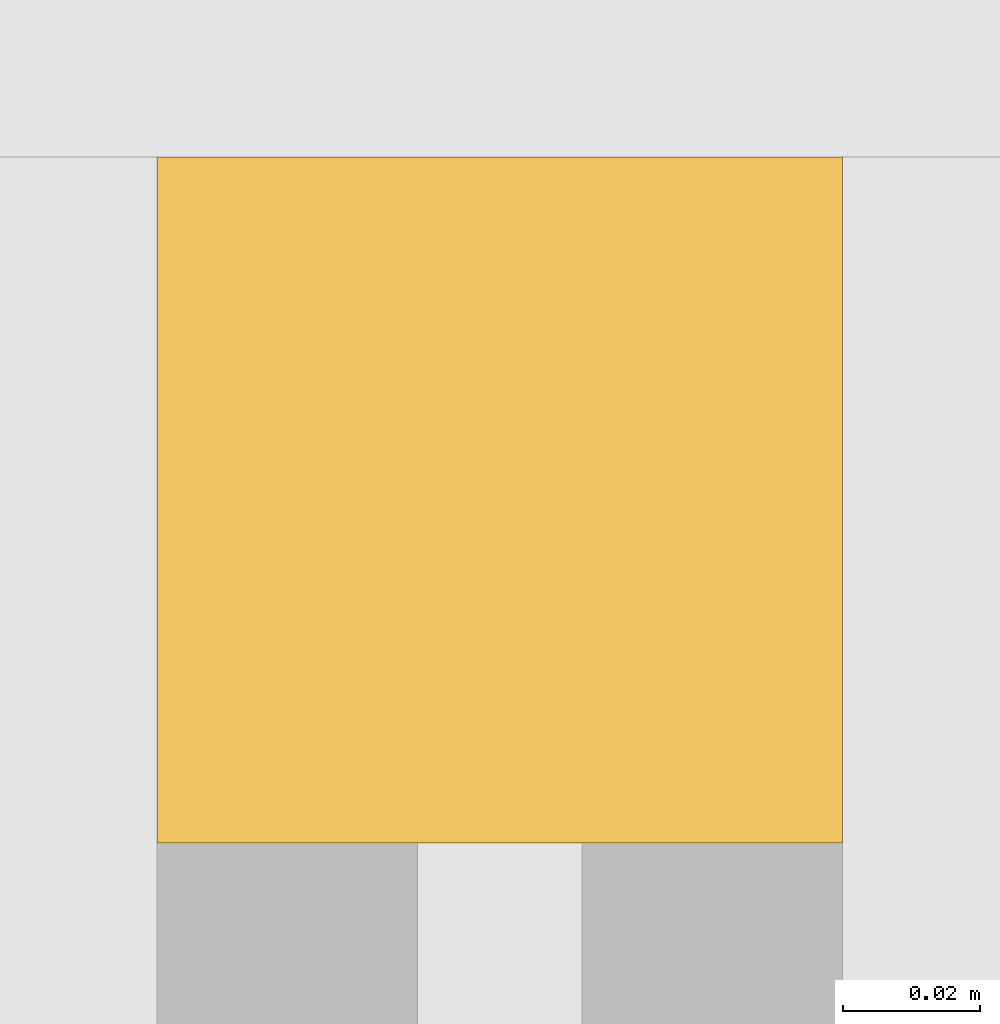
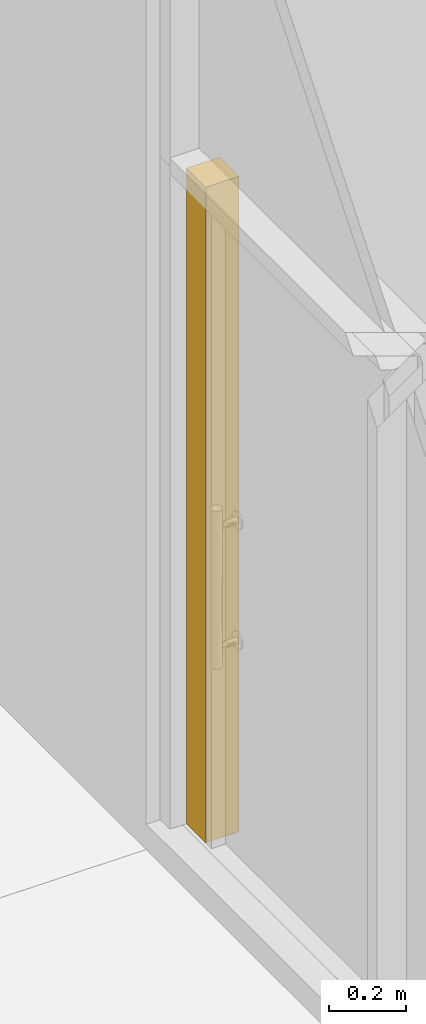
# One storey, part 71 of 100: 1 curtain wall, 1 opening, 1 element without a shape of its own.
"""IFC2X3 building model written with IfcOpenShell, lengths in millimetres."""

from ifc_helpers import new_model, entity, si_unit, converted_unit, derived_unit, direction, frame, frame_2d, origin, place, context, subcontext, project, spatial, rectangle, extrude, material, layer, layer_set, layer_usage, type_object, element, aggregate, save


model = new_model("IFC2X3")

# Units and contexts
model_context = context("Model", 3, precision=0.01, world=origin(), true_north=direction((6.123031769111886e-17, 1.0)))
body_context = subcontext(model_context, "Body", "Model", "MODEL_VIEW")
ifc_project = project(units=[si_unit("LENGTHUNIT", "METRE", prefix="MILLI"), si_unit("AREAUNIT", "SQUARE_METRE"), si_unit("VOLUMEUNIT", "CUBIC_METRE"), converted_unit("PLANEANGLEUNIT", "DEGREE", entity("IfcRatioMeasure", 0.017453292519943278), si_unit("PLANEANGLEUNIT", "RADIAN"), dimensions=[0, 0, 0, 0, 0, 0, 0]), si_unit("MASSUNIT", "GRAM", prefix="KILO"), derived_unit("MASSDENSITYUNIT", [(si_unit("MASSUNIT", "GRAM", prefix="KILO"), 1), (si_unit("LENGTHUNIT", "METRE"), -3)]), derived_unit("MOMENTOFINERTIAUNIT", [(si_unit("LENGTHUNIT", "METRE"), 4)]), si_unit("TIMEUNIT", "SECOND"), si_unit("FREQUENCYUNIT", "HERTZ"), si_unit("THERMODYNAMICTEMPERATUREUNIT", "DEGREE_CELSIUS"), derived_unit("THERMALTRANSMITTANCEUNIT", [(si_unit("MASSUNIT", "GRAM", prefix="KILO"), 1), (si_unit("THERMODYNAMICTEMPERATUREUNIT", "KELVIN"), -1), (si_unit("TIMEUNIT", "SECOND"), -3)]), derived_unit("VOLUMETRICFLOWRATEUNIT", [(si_unit("LENGTHUNIT", "METRE"), 3), (si_unit("TIMEUNIT", "SECOND"), -1)]), derived_unit("MASSFLOWRATEUNIT", [(si_unit("MASSUNIT", "GRAM", prefix="KILO"), 1), (si_unit("TIMEUNIT", "SECOND"), -1)]), derived_unit("ROTATIONALFREQUENCYUNIT", [(si_unit("TIMEUNIT", "SECOND"), -1)]), si_unit("ELECTRICCURRENTUNIT", "AMPERE"), si_unit("ELECTRICVOLTAGEUNIT", "VOLT"), si_unit("POWERUNIT", "WATT"), si_unit("FORCEUNIT", "NEWTON", prefix="KILO"), si_unit("ILLUMINANCEUNIT", "LUX"), si_unit("LUMINOUSFLUXUNIT", "LUMEN"), si_unit("LUMINOUSINTENSITYUNIT", "CANDELA"), derived_unit("USERDEFINED", [(si_unit("MASSUNIT", "GRAM", prefix="KILO"), -1), (si_unit("LENGTHUNIT", "METRE"), -2), (si_unit("TIMEUNIT", "SECOND"), 3), (si_unit("LUMINOUSFLUXUNIT", "LUMEN"), 1)]), derived_unit("SOUNDPOWERUNIT", [(si_unit("MASSUNIT", "GRAM", prefix="KILO"), 1), (si_unit("LENGTHUNIT", "METRE"), 2), (si_unit("TIMEUNIT", "SECOND"), -3)]), derived_unit("SOUNDPRESSUREUNIT", [(si_unit("MASSUNIT", "GRAM", prefix="KILO"), 1), (si_unit("LENGTHUNIT", "METRE"), -1), (si_unit("TIMEUNIT", "SECOND"), -2)]), derived_unit("LINEARVELOCITYUNIT", [(si_unit("LENGTHUNIT", "METRE"), 1), (si_unit("TIMEUNIT", "SECOND"), -1)]), si_unit("PRESSUREUNIT", "PASCAL"), derived_unit("USERDEFINED", [(si_unit("LENGTHUNIT", "METRE"), -2), (si_unit("MASSUNIT", "GRAM", prefix="KILO"), 1), (si_unit("TIMEUNIT", "SECOND"), -2)]), derived_unit("LINEARFORCEUNIT", [(si_unit("MASSUNIT", "GRAM", prefix="KILO"), 1), (si_unit("LENGTHUNIT", "METRE"), 1), (si_unit("TIMEUNIT", "SECOND"), -2), (si_unit("LENGTHUNIT", "METRE"), -1)]), derived_unit("PLANARFORCEUNIT", [(si_unit("MASSUNIT", "GRAM", prefix="KILO"), 1), (si_unit("LENGTHUNIT", "METRE"), 1), (si_unit("TIMEUNIT", "SECOND"), -2), (si_unit("LENGTHUNIT", "METRE"), -2)])], contexts=[model_context])

# Site, building, storey
site_placement = place(None, frame((-14167.972527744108, -657.2125860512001, 0.0)))
site = spatial("IfcSite", under=ifc_project, at=site_placement, Name="Default", CompositionType="ELEMENT")
building_placement = place(site_placement, origin())
building = spatial("IfcBuilding", under=site, at=building_placement, Name="Sample Building", CompositionType="ELEMENT")
storey_placement = place(building_placement, origin())
storey = spatial("IfcBuildingStorey", under=building, at=storey_placement, Name="지상 1층", CompositionType="ELEMENT", Elevation=0.0)

# Curtain walls, opening
curtain_wall_type_1 = type_object("IfcCurtainWallType", Name="커튼월:CW112-스테인리스 스틸 커튼월", PredefinedType="NOTDEFINED")
curtain_wall_1_placement = place(storey_placement, origin())
curtain_wall_1 = element("IfcCurtainWall", 1, at=curtain_wall_1_placement, inside=storey, type_object=curtain_wall_type_1, Name="커튼월:CW112-스테인리스 스틸 커튼월", ObjectType="커튼월:CW112-스테인리스 스틸 커튼월")
ifc_material = material(Name="KBIMS-콘크리트")
ifc_layer = layer(ifc_material, 100.0)
ifc_layer_set = layer_set([ifc_layer], Name="커튼월:CW112-스테인리스 스틸 커튼월")
ifc_layer_usage = layer_usage(ifc_layer_set, "AXIS2", "NEGATIVE", 50.0)
curtain_wall_type_2 = type_object("IfcCurtainWallType", Name="기본 벽:WA111-철근콘크리트구조 벽 100mm", PredefinedType="NOTDEFINED", material=ifc_layer_set)
curtain_wall_2_placement = place(storey_placement, frame((14129.83965484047, 12207.194891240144, 80.0), z_axis=(0.0, 0.0, 1.0), x_axis=(0.0, -1.0, 0.0)))
curtain_wall_2 = element("IfcCurtainWall", 2, at=curtain_wall_2_placement, type_object=curtain_wall_type_2, material=ifc_layer_usage, Name="기본 벽:WA111-철근콘크리트구조 벽 100mm", ObjectType="기본 벽:WA111-철근콘크리트구조 벽 100mm", context=body_context, shape_type="SweptSolid", body=[
    extrude(rectangle(XDim=100.01726684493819, YDim=100.00000000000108, at=frame_2d((1.0800249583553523e-12, 1.0835776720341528e-12), x_axis=(1.0, 0.0))), frame((50.008633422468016, 0.0, 0.0)), (0.0, 0.0, 1.0), 2075.0),
])
opening_placement = place(curtain_wall_2_placement, frame((100.01726684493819, -50.0, -25.0)))
element("IfcOpeningElement", 3, at=opening_placement, cuts=curtain_wall_2, Name="DR111-외여닫이문(철재, 일반, 양개):DR111-외여닫이문(유리, 일반, 양개) 950x2100mm:1", ObjectType="Opening", context=body_context, shape_type="SweptSolid", body=[
    extrude(rectangle(XDim=2099.9999999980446, YDim=949.9999999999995, at=frame_2d((1049.9999999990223, 474.9999999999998), x_axis=(1.0, 0.0))), frame((0.0, 0.0, 0.0), z_axis=(0.0, 1.0, 0.0), x_axis=(0.0, 0.0, 1.0)), (0.0, 0.0, 1.0), 100.0),
])
aggregate(curtain_wall_1, [curtain_wall_2])

save(model, "model.ifc")
